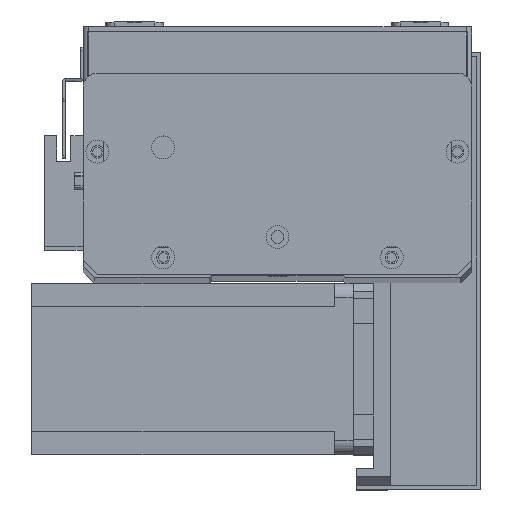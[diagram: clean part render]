
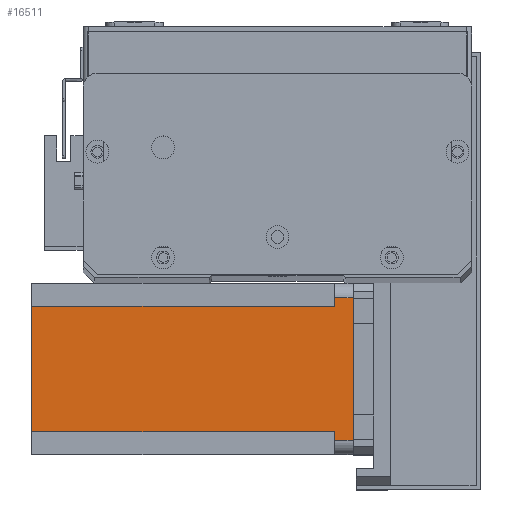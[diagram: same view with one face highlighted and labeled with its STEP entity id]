
A CAD part, top view. The second image highlights one B-rep face of the part: STEP entity #16511.
In plain terms, the highlighted planar face has unit normal (0, 0, 1) as drawn and (0, -1, 0) by its records, which use the part's own axes.
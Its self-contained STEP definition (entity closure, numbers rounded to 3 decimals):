
#104 = VERTEX_POINT ( 'NONE', #3552 ) ;
#219 = ORIENTED_EDGE ( 'NONE', *, *, #18528, .F. ) ;
#872 = ORIENTED_EDGE ( 'NONE', *, *, #20541, .F. ) ;
#2623 = CARTESIAN_POINT ( 'NONE',  ( 52., 0., -6.5 ) ) ;
#2663 = VECTOR ( 'NONE', #18523, 1000. ) ;
#2841 = ORIENTED_EDGE ( 'NONE', *, *, #5071, .F. ) ;
#2912 = CARTESIAN_POINT ( 'NONE',  ( 8., 0., -112.5 ) ) ;
#3086 = EDGE_LOOP ( 'NONE', ( #7833, #17742, #2841, #4451, #219, #12435, #27791, #872 ) ) ;
#3231 = CARTESIAN_POINT ( 'NONE',  ( 8., 0., -6.5 ) ) ;
#3305 = VECTOR ( 'NONE', #24238, 1000. ) ;
#3552 = CARTESIAN_POINT ( 'NONE',  ( 55., 0., -6.5 ) ) ;
#3763 = VERTEX_POINT ( 'NONE', #17062 ) ;
#4451 = ORIENTED_EDGE ( 'NONE', *, *, #16787, .T. ) ;
#5071 = EDGE_CURVE ( 'NONE', #3763, #23862, #24779, .T. ) ;
#5510 = DIRECTION ( 'NONE',  ( -1., 0., 0. ) ) ;
#7098 = CARTESIAN_POINT ( 'NONE',  ( 0., 0., 0. ) ) ;
#7833 = ORIENTED_EDGE ( 'NONE', *, *, #19009, .T. ) ;
#8068 = AXIS2_PLACEMENT_3D ( 'NONE', #14475, #28103, #14565 ) ;
#9353 = DIRECTION ( 'NONE',  ( 1., 0., 0. ) ) ;
#9354 = CARTESIAN_POINT ( 'NONE',  ( 5., 0., -6.5 ) ) ;
#9765 = VERTEX_POINT ( 'NONE', #2912 ) ;
#9768 = VERTEX_POINT ( 'NONE', #23116 ) ;
#11388 = DIRECTION ( 'NONE',  ( 0., 0., 1. ) ) ;
#12435 = ORIENTED_EDGE ( 'NONE', *, *, #18184, .F. ) ;
#12451 = CARTESIAN_POINT ( 'NONE',  ( 8., 0., -112.5 ) ) ;
#12782 = VECTOR ( 'NONE', #9353, 1000. ) ;
#12853 = VERTEX_POINT ( 'NONE', #13564 ) ;
#12951 = VECTOR ( 'NONE', #18385, 1000. ) ;
#13161 = VERTEX_POINT ( 'NONE', #23617 ) ;
#13564 = CARTESIAN_POINT ( 'NONE',  ( 52., 0., -6.5 ) ) ;
#13636 = LINE ( 'NONE', #2623, #12951 ) ;
#14475 = CARTESIAN_POINT ( 'NONE',  ( 0., 0., -112.5 ) ) ;
#14565 = DIRECTION ( 'NONE',  ( 0., 0., -1. ) ) ;
#14872 = VECTOR ( 'NONE', #11388, 1000. ) ;
#15999 = LINE ( 'NONE', #21961, #3305 ) ;
#16198 = FACE_OUTER_BOUND ( 'NONE', #3086, .T. ) ;
#16307 = EDGE_CURVE ( 'NONE', #9765, #13161, #20661, .T. ) ;
#16511 = ADVANCED_FACE ( 'NONE', ( #16198 ), #21283, .T. ) ;
#16787 = EDGE_CURVE ( 'NONE', #3763, #18388, #27143, .T. ) ;
#17062 = CARTESIAN_POINT ( 'NONE',  ( 5., 0., 0. ) ) ;
#17742 = ORIENTED_EDGE ( 'NONE', *, *, #21690, .T. ) ;
#18184 = EDGE_CURVE ( 'NONE', #9765, #9768, #21453, .T. ) ;
#18255 = LINE ( 'NONE', #3231, #23542 ) ;
#18385 = DIRECTION ( 'NONE',  ( 1., 0., 0. ) ) ;
#18388 = VERTEX_POINT ( 'NONE', #9354 ) ;
#18523 = DIRECTION ( 'NONE',  ( 1., 0., 0. ) ) ;
#18528 = EDGE_CURVE ( 'NONE', #9768, #18388, #18255, .T. ) ;
#19009 = EDGE_CURVE ( 'NONE', #12853, #104, #13636, .T. ) ;
#20379 = CARTESIAN_POINT ( 'NONE',  ( 55., 0., -112.5 ) ) ;
#20541 = EDGE_CURVE ( 'NONE', #12853, #13161, #15999, .T. ) ;
#20661 = LINE ( 'NONE', #27517, #2663 ) ;
#21151 = VECTOR ( 'NONE', #24934, 1000. ) ;
#21283 = PLANE ( 'NONE',  #8068 ) ;
#21453 = LINE ( 'NONE', #12451, #26753 ) ;
#21596 = LINE ( 'NONE', #20379, #14872 ) ;
#21690 = EDGE_CURVE ( 'NONE', #104, #23862, #21596, .T. ) ;
#21961 = CARTESIAN_POINT ( 'NONE',  ( 52., 0., -112.5 ) ) ;
#22665 = CARTESIAN_POINT ( 'NONE',  ( 5., 0., -112.5 ) ) ;
#23116 = CARTESIAN_POINT ( 'NONE',  ( 8., 0., -6.5 ) ) ;
#23542 = VECTOR ( 'NONE', #5510, 1000. ) ;
#23617 = CARTESIAN_POINT ( 'NONE',  ( 52., 0., -112.5 ) ) ;
#23862 = VERTEX_POINT ( 'NONE', #24088 ) ;
#24088 = CARTESIAN_POINT ( 'NONE',  ( 55., 0., 0. ) ) ;
#24238 = DIRECTION ( 'NONE',  ( 0., 0., -1. ) ) ;
#24779 = LINE ( 'NONE', #7098, #12782 ) ;
#24934 = DIRECTION ( 'NONE',  ( 0., 0., -1. ) ) ;
#26064 = DIRECTION ( 'NONE',  ( 0., 0., 1. ) ) ;
#26753 = VECTOR ( 'NONE', #26064, 1000. ) ;
#27143 = LINE ( 'NONE', #22665, #21151 ) ;
#27517 = CARTESIAN_POINT ( 'NONE',  ( 0., 0., -112.5 ) ) ;
#27791 = ORIENTED_EDGE ( 'NONE', *, *, #16307, .T. ) ;
#28103 = DIRECTION ( 'NONE',  ( 0., -1., 0. ) ) ;
